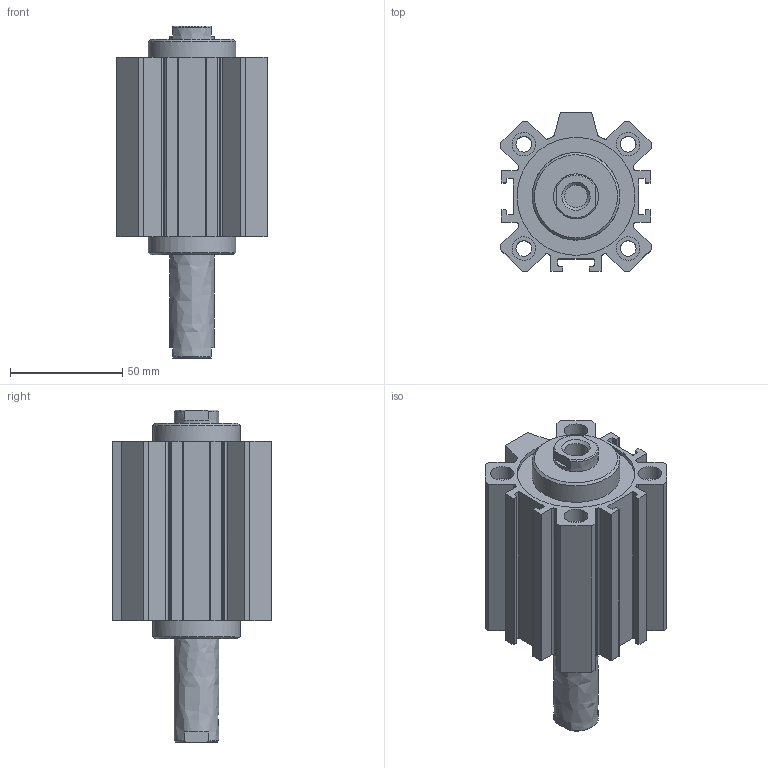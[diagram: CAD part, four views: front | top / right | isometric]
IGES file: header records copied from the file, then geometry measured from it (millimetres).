
Global section: file name: 1514_50_0040; native system: Autodesk Inventor 2014; preprocessor: unknown; author: A. Manieri; date: 20160824.134201; units: millimetre
Bounding box: 67 x 71 x 148 mm (x, y, z)
Volume: 242213.2 mm3; surface area: 78282.9 mm2
Topology: 2 solids, 2 shells, 178 faces, 482 edges, 328 vertices
Faces by surface type: bspline 178
